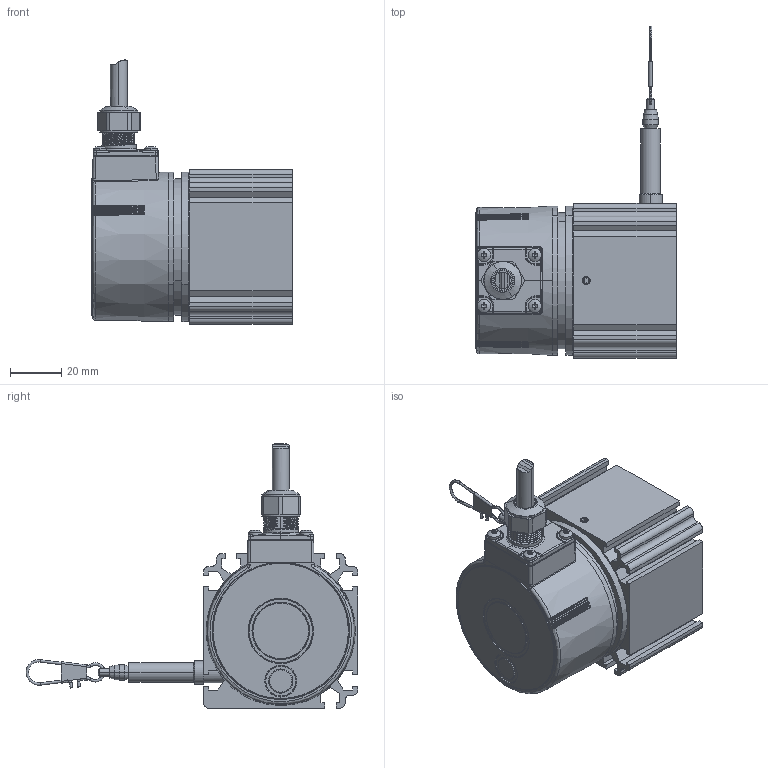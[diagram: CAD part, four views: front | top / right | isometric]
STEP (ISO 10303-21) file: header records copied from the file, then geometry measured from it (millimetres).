
FILE_DESCRIPTION((''),'2;1');
FILE_NAME('WDS-1000-P60-CR-TTL_02_ASM','2024-05-23T09:37:09',('15000597'),(''),'CREO PARAMETRIC BY PTC INC, 2022164','CREO PARAMETRIC BY PTC INC, 2022164','');
FILE_SCHEMA(('AUTOMOTIVE_DESIGN { 1 0 10303 214 1 1 1 1 }'));
Products named in the file (9): BAU_KLEMM_TTL_EIL580-SC10I5RE; ADAPTER_36_AF2; TELESO_SENZORU_P60_100_AF3; VIKO_PR55_TL1MM; PRUCHODKA_LANKA_P60_AF3; SROUB_ISO4026_STAV_HEX_M3X3_AF2; SROUB_ISO4026_STAV_HEX_M3X3_AF3; KARABINKA25_AF1; WDS-1000-P60-CR-TTL_02_ASM
Assembly tree (8 placements, depth 2):
  WDS-1000-P60-CR-TTL_02_ASM
    BAU_KLEMM_TTL_EIL580-SC10I5RE
    ADAPTER_36_AF2
    TELESO_SENZORU_P60_100_AF3
    VIKO_PR55_TL1MM
    PRUCHODKA_LANKA_P60_AF3
    SROUB_ISO4026_STAV_HEX_M3X3_AF2
    SROUB_ISO4026_STAV_HEX_M3X3_AF3
    KARABINKA25_AF1
Bounding box: 78 x 128.99 x 102.65 mm (x, y, z)
Volume: 34092.2 mm3; surface area: 53002.9 mm2
Topology: 7 solids, 15 shells, 825 faces, 2256 edges, 1451 vertices
Faces by surface type: cylinder 279, plane 232, bspline 132, torus 88, cone 59, extrusion 18, sphere 17
Entity records: 49345 total; most frequent: CARTESIAN_POINT 22428, ORIENTED_EDGE 4440, DIRECTION 3805, EDGE_CURVE 2236, AXIS2_PLACEMENT_3D 1499, VERTEX_POINT 1451, PRESENTATION_STYLE_ASSIGNMENT 1231, STYLED_ITEM 1227
